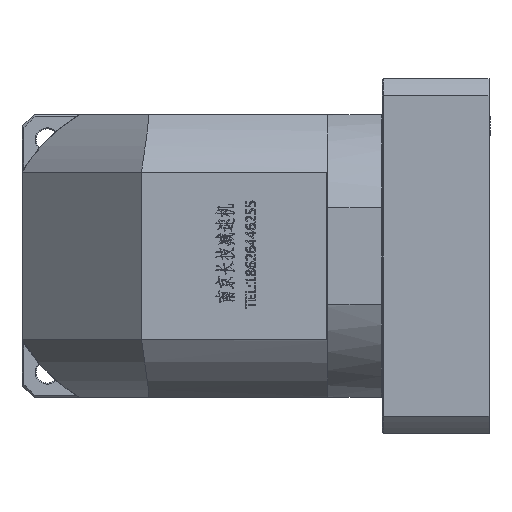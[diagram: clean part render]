
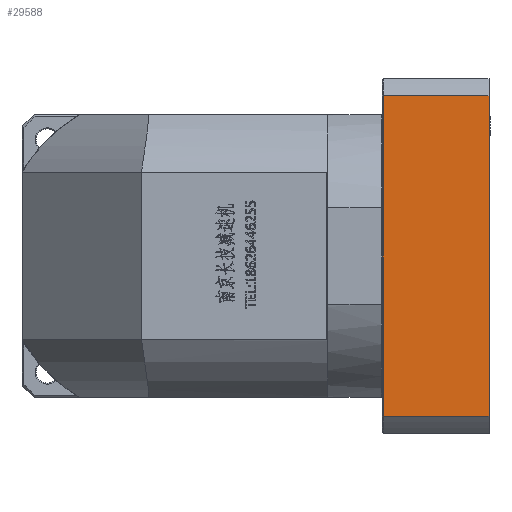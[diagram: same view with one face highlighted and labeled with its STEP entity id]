
A CAD part, left-side view. The second image highlights one B-rep face of the part: STEP entity #29588.
In plain terms, the highlighted planar face has unit normal (-1, 0, 0).
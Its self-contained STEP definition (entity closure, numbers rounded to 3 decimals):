
#1011 = VERTEX_POINT ( 'NONE', #121329 ) ;
#2453 = CARTESIAN_POINT ( 'NONE',  ( -47.552, -223.319, 317.864 ) ) ;
#8443 = ORIENTED_EDGE ( 'NONE', *, *, #67032, .F. ) ;
#14058 = CARTESIAN_POINT ( 'NONE',  ( -47.552, -170.319, 156.879 ) ) ;
#15387 = AXIS2_PLACEMENT_3D ( 'NONE', #86463, #19942, #35277 ) ;
#19942 = DIRECTION ( 'NONE',  ( 1., 0., 0. ) ) ;
#20529 = EDGE_CURVE ( 'NONE', #148064, #169842, #170202, .T. ) ;
#22598 = CARTESIAN_POINT ( 'NONE',  ( -47.552, -170.319, 148.371 ) ) ;
#26757 = FACE_OUTER_BOUND ( 'NONE', #47105, .T. ) ;
#28269 = VECTOR ( 'NONE', #82584, 1000. ) ;
#29349 = DIRECTION ( 'NONE',  ( 0., 1., 0. ) ) ;
#29588 = ADVANCED_FACE ( 'NONE', ( #26757 ), #41633, .F. ) ;
#30965 = EDGE_CURVE ( 'NONE', #148064, #88828, #87959, .T. ) ;
#31114 = DIRECTION ( 'NONE',  ( 0., -1., 0. ) ) ;
#35277 = DIRECTION ( 'NONE',  ( 0., 1., 0. ) ) ;
#41633 = PLANE ( 'NONE',  #15387 ) ;
#43021 = LINE ( 'NONE', #55794, #141536 ) ;
#43023 = CARTESIAN_POINT ( 'NONE',  ( -47.552, -170.319, 317.864 ) ) ;
#47105 = EDGE_LOOP ( 'NONE', ( #146383, #142026, #8443, #91034 ) ) ;
#48375 = DIRECTION ( 'NONE',  ( 0., 0., -1. ) ) ;
#55794 = CARTESIAN_POINT ( 'NONE',  ( -47.552, 172.986, 156.879 ) ) ;
#57106 = LINE ( 'NONE', #136348, #28269 ) ;
#67032 = EDGE_CURVE ( 'NONE', #1011, #169842, #43021, .T. ) ;
#72573 = EDGE_CURVE ( 'NONE', #88828, #1011, #57106, .T. ) ;
#82584 = DIRECTION ( 'NONE',  ( 0., 0., -1. ) ) ;
#85835 = VECTOR ( 'NONE', #31114, 1000. ) ;
#86463 = CARTESIAN_POINT ( 'NONE',  ( -47.552, -223.819, 148.371 ) ) ;
#87959 = LINE ( 'NONE', #162456, #85835 ) ;
#88828 = VERTEX_POINT ( 'NONE', #2453 ) ;
#91034 = ORIENTED_EDGE ( 'NONE', *, *, #72573, .F. ) ;
#121329 = CARTESIAN_POINT ( 'NONE',  ( -47.552, -223.319, 156.879 ) ) ;
#136348 = CARTESIAN_POINT ( 'NONE',  ( -47.552, -223.319, 148.371 ) ) ;
#141536 = VECTOR ( 'NONE', #29349, 1000. ) ;
#142026 = ORIENTED_EDGE ( 'NONE', *, *, #20529, .T. ) ;
#145437 = VECTOR ( 'NONE', #48375, 1000. ) ;
#146383 = ORIENTED_EDGE ( 'NONE', *, *, #30965, .F. ) ;
#148064 = VERTEX_POINT ( 'NONE', #43023 ) ;
#162456 = CARTESIAN_POINT ( 'NONE',  ( -47.552, -223.819, 317.864 ) ) ;
#169842 = VERTEX_POINT ( 'NONE', #14058 ) ;
#170202 = LINE ( 'NONE', #22598, #145437 ) ;
